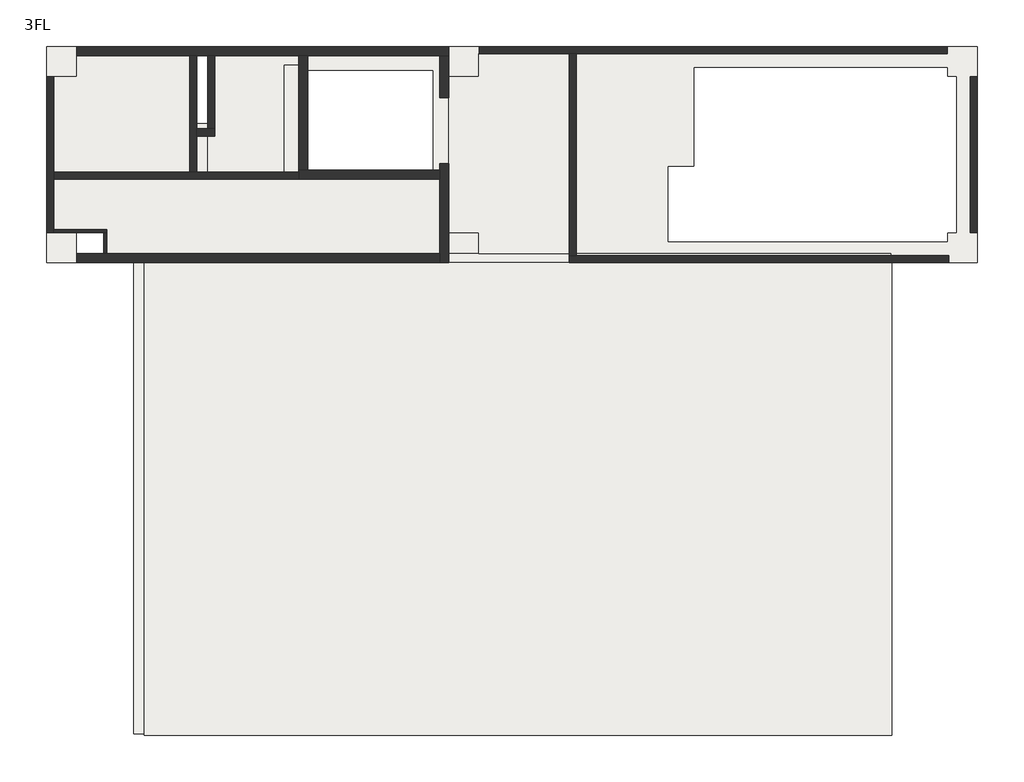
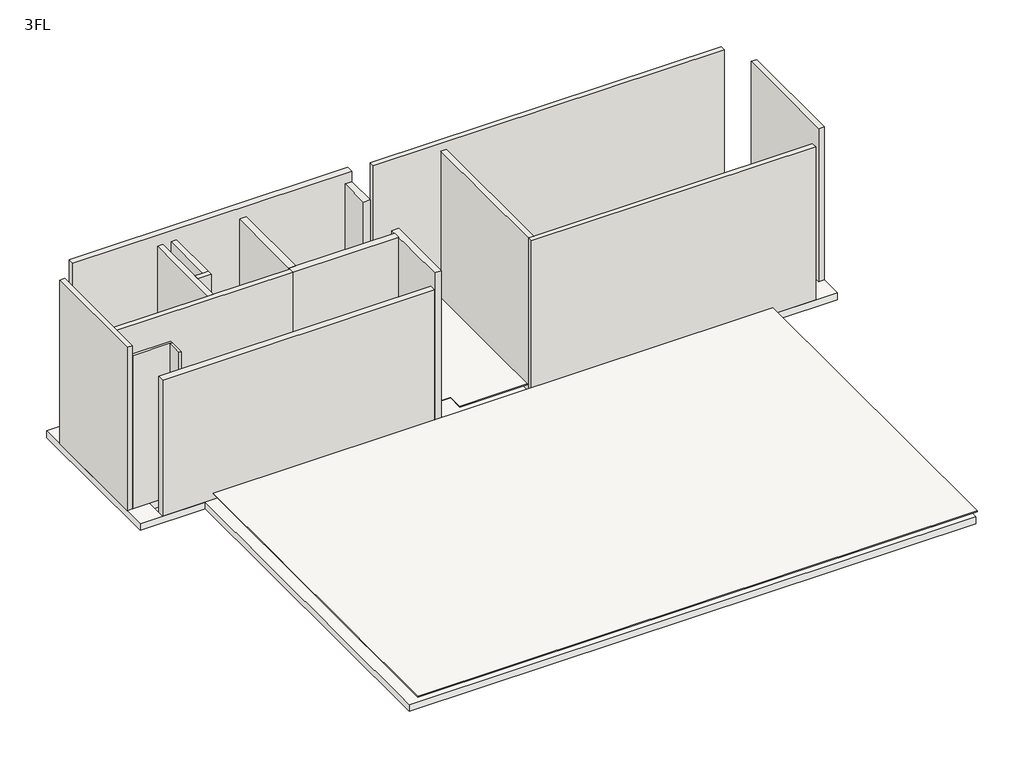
# One storey: 17 walls, 4 slabs.
"""IFC4 building model written with IfcOpenShell, lengths in millimetres."""

from ifc_helpers import new_model, si_unit, frame, origin, place, context, project, spatial, polyline, outline, extrude, faceted_brep, element, save

model = new_model("IFC4")

# Units and contexts
model_context = context("Model", 3, world=origin())
ifc_project = project(units=[si_unit("LENGTHUNIT", "METRE", prefix="MILLI")], contexts=[model_context])

# Site, building, storey
site = spatial("IfcSite", under=ifc_project)
building = spatial("IfcBuilding", under=site)
storey = spatial("IfcBuildingStorey", under=building, Name="3FL", Elevation=7450.0)

# Slabs
placement = place(None, origin())
element("IfcSlab", 1, ObjectType="鋼承版 - 16mm", at=placement, inside=storey, context=model_context, shape_type="SweptSolid", body=[
    extrude(outline(polyline([(-7565.3414697, 5384.8693073), (7934.8742545, 5384.8693073), (7934.8742545, 1784.8693073), (-7565.3414697, 1784.8693073), (-7565.3414697, 5384.8693073)]), holes=[polyline([(-4884.3162553, 5264.8693073), (-5064.3162553, 5264.8693073), (-5064.3162553, 4104.9876898), (-4884.3162553, 4104.9876898), (-4884.3162553, 5264.8693073)]), polyline([(-6612.356589, 2284.8693073), (-7065.3414697, 2284.8693073), (-7065.3414697, 1934.8693073), (-6612.356589, 1934.8693073), (-6612.356589, 2284.8693073)]), polyline([(7435.6837447, 4884.8693073), (7435.6837447, 5034.8693073), (3216.3930605, 5034.8693073), (3216.3930605, 3386.1193073), (2786.3930605, 3386.1193073), (2786.3930605, 2134.8693073), (7434.8742545, 2134.8693073), (7434.8742545, 2284.8693073), (7584.8742545, 2284.8693073), (7584.8742545, 4884.8693073), (7435.6837447, 4884.8693073)]), polyline([(-3215.3414697, 4984.8693073), (-3215.3414697, 3324.8693073), (-1134.3162553, 3324.8693073), (-1134.3162553, 4984.8693073), (-3215.3414697, 4984.8693073)])]), frame((0.0, 0.0, 7290.0), z_axis=(0.0, 0.0, 1.0), x_axis=(1.0, 0.0, 0.0)), (0.0, 0.0, 1.0), 160.0),
])
element("IfcSlab", 2, ObjectType="鋼承版 - 16mm", at=placement, inside=storey, context=model_context, shape_type="SweptSolid", body=[
    extrude(outline(polyline([(6489.8482097, 1934.8693073), (6489.8482097, -6065.1306927), (-6115.1257451, -6065.1306927), (-6115.1257451, 1934.8693073), (6489.8482097, 1934.8693073)])), frame((0.0, 0.0, 7290.0), z_axis=(0.0, 0.0, 1.0), x_axis=(1.0, 0.0, 0.0)), (0.0, 0.0, 1.0), 160.0),
])
element("IfcSlab", 3, ObjectType="架高樓板", at=placement, inside=storey, context=model_context, shape_type="SweptSolid", body=[
    extrude(outline(polyline([(6509.6585307, -6090.1306927), (-5940.3414693, -6090.1306927), (-5940.3414693, 1784.8693073), (6509.6585307, 1784.8693073), (6509.6585307, -6090.1306927)])), frame((0.0, 0.0, 7580.0), z_axis=(0.0, 0.0, 1.0), x_axis=(1.0, 0.0, 0.0)), (0.0, 0.0, 1.0), 20.0),
])
element("IfcSlab", 4, ObjectType="架高樓板", at=placement, inside=storey, context=model_context, shape_type="SweptSolid", body=[
    extrude(outline(polyline([(-7445.3414697, 2335.8071957), (-7445.3414697, 4884.8693073), (-7065.3414697, 4884.8693073), (-7065.3414697, 5264.8693073), (-5184.3162553, 5264.8693073), (-5184.3162553, 3294.869307), (-5464.3162553, 3294.869307), (-5464.3162553, 3174.869307), (-4564.5319795, 3174.869307), (-4564.5319795, 3294.869307), (-4884.3162553, 3294.869307), (-4884.3162553, 3894.869307), (-4764.3162553, 3894.869307), (-4764.3162553, 5264.8693073), (-3364.3162553, 5264.8693073), (-3364.3162553, 5084.8693073), (-3614.3162553, 5084.8693073), (-3614.3162553, 3294.869307), (-3714.5319795, 3294.869307), (-3714.5319795, 3174.8693068), (-1014.3162553, 3174.8693068), (-1014.3162553, 3324.8693073), (-865.3414693, 3324.8693073), (-865.3414693, 4884.8693073), (-365.3414693, 4884.8693073), (-365.3414693, 5264.8693073), (1135.6837447, 5264.8693073), (1135.6837447, 1934.8693073), (-365.1552631, 1934.8693073), (-365.1552631, 2285.1231494), (-865.3414693, 2285.1231494), (-865.3414693, 2161.8693073), (-1014.3162553, 2161.8693073), (-1014.3162553, 1934.8693073), (-6562.356589, 1934.8693073), (-6562.356589, 2335.8071957), (-7445.3414697, 2335.8071957)])), frame((0.0, 0.0, 7580.0), z_axis=(0.0, 0.0, 1.0), x_axis=(1.0, 0.0, 0.0)), (0.0, 0.0, 1.0), 20.0),
])

# Walls
element("IfcWall", 5, ObjectType="RC 牆 12cm", at=placement, inside=storey, context=model_context, shape_type="Brep", body=[
    faceted_brep([(-7445.3414697, 3174.869307, 7450.0), (-3364.5319795, 3174.869307, 7450.0), (-3364.5319795, 3174.869307, 11050.0), (-7445.3414697, 3174.869307, 11050.0), (-7445.3414697, 3294.869307, 7450.0), (-7445.3414697, 3294.869307, 11050.0), (-5184.3162553, 3294.869307, 11050.0), (-5064.3162553, 3294.869307, 11050.0), (-3364.5319795, 3294.869307, 11050.0), (-3364.5319795, 3294.869307, 7450.0), (-5064.3162553, 3294.869307, 7450.0), (-5184.3162553, 3294.869307, 7450.0)], [[[0, 1, 2, 3]], [[4, 5, 6, 7, 8, 9, 10, 11]], [[1, 0, 4, 11, 10, 9]], [[2, 1, 9, 8]], [[3, 2, 8, 7, 6, 5]], [[0, 3, 5, 4]]]),
])
element("IfcWall", 6, ObjectType="RC 牆 12cm", at=placement, inside=storey, context=model_context, shape_type="Brep", body=[
    faceted_brep([(-5184.3162553, 5234.8693073, 7450.0), (-5184.3162553, 3294.869307, 7450.0), (-5184.3162553, 3294.869307, 11050.0), (-5184.3162553, 5234.8693073, 11050.0), (-5064.3162553, 5234.8693073, 7450.0), (-5064.3162553, 5234.8693073, 11050.0), (-5064.3162553, 4014.869307, 11050.0), (-5064.3162553, 3894.869307, 11050.0), (-5064.3162553, 3294.869307, 11050.0), (-5064.3162553, 3294.869307, 7450.0), (-5064.3162553, 3894.869307, 7450.0), (-5064.3162553, 4014.869307, 7450.0)], [[[0, 1, 2, 3]], [[4, 5, 6, 7, 8, 9, 10, 11]], [[1, 0, 4, 11, 10, 9]], [[3, 2, 8, 7, 6, 5]], [[2, 1, 9, 8]], [[0, 3, 5, 4]]]),
])
element("IfcWall", 7, ObjectType="RC 牆 12cm", at=placement, inside=storey, context=model_context, shape_type="SweptSolid", body=[
    extrude(outline(polyline([(-4884.3162553, 4014.869307), (-4884.3162553, 5234.8693073), (-4764.3162553, 5234.8693073), (-4764.3162553, 4014.869307), (-4884.3162553, 4014.869307)])), frame((0.0, 0.0, 7450.0), z_axis=(0.0, 0.0, 1.0), x_axis=(1.0, 0.0, 0.0)), (0.0, 0.0, 1.0), 3600.0),
])
element("IfcWall", 8, ObjectType="RC 牆 12cm", at=placement, inside=storey, context=model_context, shape_type="Brep", body=[
    faceted_brep([(-4764.3162553, 4014.869307, 7450.0), (-4884.3162553, 4014.869307, 7450.0), (-5064.3162553, 4014.869307, 7450.0), (-5064.3162553, 4014.869307, 11050.0), (-4884.3162553, 4014.869307, 11050.0), (-4764.3162553, 4014.869307, 11050.0), (-4764.3162553, 3894.869307, 7450.0), (-4764.3162553, 3894.869307, 11050.0), (-5064.3162553, 3894.869307, 11050.0), (-5064.3162553, 3894.869307, 7450.0)], [[[0, 1, 2, 3, 4, 5]], [[6, 7, 8, 9]], [[2, 1, 0, 6, 9]], [[5, 4, 3, 8, 7]], [[3, 2, 9, 8]], [[0, 5, 7, 6]]]),
])
element("IfcWall", 9, ObjectType="RC 牆 15cm", at=placement, inside=storey, context=model_context, shape_type="Brep", body=[
    faceted_brep([(-7064.5319795, 5234.8693073, 7450.0), (-5184.3162553, 5234.8693073, 7450.0), (-5064.3162553, 5234.8693073, 7450.0), (-4884.3162553, 5234.8693073, 7450.0), (-4764.3162553, 5234.8693073, 7450.0), (-3364.3162553, 5234.8693073, 7450.0), (-3214.3162553, 5234.8693073, 7450.0), (-865.3414693, 5234.8693073, 7450.0), (-865.3414693, 5234.8693073, 11300.0), (-7064.5319795, 5234.8693073, 11300.0), (-7064.5319795, 5384.8693073, 7450.0), (-7064.5319795, 5384.8693073, 11300.0), (-865.3414693, 5384.8693073, 11300.0), (-865.3414693, 5384.8693073, 7450.0)], [[[0, 1, 2, 3, 4, 5, 6, 7, 8, 9]], [[10, 11, 12, 13]], [[7, 6, 5, 4, 3, 2, 1, 0, 10, 13]], [[9, 8, 12, 11]], [[0, 9, 11, 10]], [[8, 7, 13, 12]]]),
])
element("IfcWall", 10, ObjectType="RC 牆 15cm", at=placement, inside=storey, context=model_context, shape_type="SweptSolid", body=[
    extrude(outline(polyline([(-3364.3162553, 3324.8693073), (-3364.3162553, 5234.8693073), (-3214.3162553, 5234.8693073), (-3214.3162553, 3324.8693073), (-3364.3162553, 3324.8693073)])), frame((0.0, 0.0, 7450.0), z_axis=(0.0, 0.0, 1.0), x_axis=(1.0, 0.0, 0.0)), (0.0, 0.0, 1.0), 3600.0),
])
element("IfcWall", 11, ObjectType="RC 牆 15cm", at=placement, inside=storey, context=model_context, shape_type="Brep", body=[
    faceted_brep([(-3364.5319795, 3174.8693073, 7450.0), (-1014.3162553, 3174.8693073, 7450.0), (-1014.3162553, 3174.8693073, 11050.0), (-3364.5319795, 3174.8693073, 11050.0), (-3364.5319795, 3324.8693073, 7450.0), (-3364.5319795, 3324.8693073, 11050.0), (-3364.3162553, 3324.8693073, 11050.0), (-3214.3162553, 3324.8693073, 11050.0), (-1014.3162553, 3324.8693073, 11050.0), (-1014.3162553, 3324.8693073, 7450.0), (-3214.3162553, 3324.8693073, 7450.0), (-3364.3162553, 3324.8693073, 7450.0), (-3364.5319795, 3294.869307, 7450.0), (-3364.5319795, 3294.869307, 11050.0)], [[[0, 1, 2, 3]], [[4, 5, 6, 7, 8, 9, 10, 11]], [[1, 0, 12, 4, 11, 10, 9]], [[3, 2, 8, 7, 6, 5, 13]], [[0, 3, 13, 5, 4, 12]], [[2, 1, 9, 8]]]),
])
element("IfcWall", 12, ObjectType="RC 牆 15cm", at=placement, inside=storey, context=model_context, shape_type="SweptSolid", body=[
    extrude(outline(polyline([(-1014.3162553, 1784.8693073), (-1014.3162553, 3429.8693073), (-864.3162553, 3429.8693073), (-864.3162553, 1784.8693073), (-1014.3162553, 1784.8693073)])), frame((0.0, 0.0, 7450.0), z_axis=(0.0, 0.0, 1.0), x_axis=(1.0, 0.0, 0.0)), (0.0, 0.0, 1.0), 3600.0),
])
element("IfcWall", 13, ObjectType="RC 牆 12cm", at=placement, inside=storey, context=model_context, shape_type="Brep", body=[
    faceted_brep([(-7565.3414697, 4884.8693073, 7450.0), (-7565.3414697, 2284.8693073, 7450.0), (-7565.3414697, 2284.8693073, 11292.0), (-7565.3414697, 4884.8693073, 11292.0), (-7445.3414697, 4884.8693073, 7450.0), (-7445.3414697, 4884.8693073, 11292.0), (-7445.3414697, 2284.8693073, 11292.0), (-7445.3414697, 2284.8693073, 7450.0), (-7445.3414697, 3174.869307, 7450.0), (-7445.3414697, 3294.869307, 7450.0)], [[[0, 1, 2, 3]], [[4, 5, 6, 7, 8, 9]], [[1, 0, 4, 9, 8, 7]], [[2, 1, 7, 6]], [[3, 2, 6, 5]], [[0, 3, 5, 4]]]),
])
element("IfcWall", 14, ObjectType="RC 牆 12cm", at=placement, inside=storey, context=model_context, shape_type="SweptSolid", body=[
    extrude(outline(polyline([(1135.6837447, 1904.8693073), (1135.6837447, 5264.8693073), (1255.6837447, 5264.8693073), (1255.6837447, 1904.8693073), (1135.6837447, 1904.8693073)])), frame((0.0, 0.0, 7450.0), z_axis=(0.0, 0.0, 1.0), x_axis=(1.0, 0.0, 0.0)), (0.0, 0.0, 1.0), 3600.0),
])
element("IfcWall", 15, ObjectType="RC 牆 12cm", at=placement, inside=storey, context=model_context, shape_type="Brep", body=[
    faceted_brep([(-364.5319791, 5264.8693073, 7450.0), (1135.6837447, 5264.8693073, 7450.0), (1255.6837447, 5264.8693073, 7450.0), (7435.6837447, 5264.8693073, 7450.0), (7435.6837447, 5264.8693073, 11231.1011202), (-364.5319791, 5264.8693073, 11231.1011202), (-364.5319791, 5384.8693073, 7450.0), (-364.5319791, 5384.8693073, 11231.1011202), (7435.6837447, 5384.8693073, 11231.1011202), (7435.6837447, 5384.8693073, 7450.0)], [[[0, 1, 2, 3, 4, 5]], [[6, 7, 8, 9]], [[3, 2, 1, 0, 6, 9]], [[4, 3, 9, 8]], [[5, 4, 8, 7]], [[0, 5, 7, 6]]]),
])
element("IfcWall", 16, ObjectType="RC 牆 12cm", at=placement, inside=storey, context=model_context, shape_type="Brep", body=[
    faceted_brep([(1135.6837447, 1784.8693073, 7450.0), (7455.6837447, 1784.8693073, 7450.0), (7455.6837447, 1784.8693073, 11050.0), (1135.6837447, 1784.8693073, 11050.0), (1135.6837447, 1904.8693073, 7450.0), (1135.6837447, 1904.8693073, 11050.0), (1255.6837447, 1904.8693073, 11050.0), (7455.6837447, 1904.8693073, 11050.0), (7455.6837447, 1904.8693073, 7450.0), (1255.6837447, 1904.8693073, 7450.0)], [[[0, 1, 2, 3]], [[4, 5, 6, 7, 8, 9]], [[1, 0, 4, 9, 8]], [[2, 1, 8, 7]], [[3, 2, 7, 6, 5]], [[0, 3, 5, 4]]]),
])
element("IfcWall", 17, ObjectType="RC 牆 15cm", at=placement, inside=storey, context=model_context, shape_type="SweptSolid", body=[
    extrude(outline(polyline([(-1015.3414693, 4529.8693073), (-1015.3414693, 5234.8693073), (-865.3414693, 5234.8693073), (-865.3414693, 4529.8693073), (-1015.3414693, 4529.8693073)])), frame((0.0, 0.0, 7450.0), z_axis=(0.0, 0.0, 1.0), x_axis=(1.0, 0.0, 0.0)), (0.0, 0.0, 1.0), 3600.0),
])
element("IfcWall", 18, ObjectType="RC 牆 12cm", at=placement, inside=storey, context=model_context, shape_type="SweptSolid", body=[
    extrude(outline(polyline([(7814.8742545, 2284.8693073), (7814.8742545, 4884.8693073), (7934.8742545, 4884.8693073), (7934.8742545, 2284.8693073), (7814.8742545, 2284.8693073)])), frame((0.0, 0.0, 7450.0), z_axis=(0.0, 0.0, 1.0), x_axis=(1.0, 0.0, 0.0)), (0.0, 0.0, 1.0), 3600.0),
])
element("IfcWall", 19, ObjectType="RC 牆 15cm", at=placement, inside=storey, context=model_context, shape_type="Brep", body=[
    faceted_brep([(-1014.3162553, 1934.8693073, 7450.0), (-6562.356589, 1934.8693073, 7450.0), (-6612.356589, 1934.8693073, 7450.0), (-7064.3162553, 1934.8693073, 7450.0), (-7064.3162553, 1934.8693073, 10650.0), (-1014.3162553, 1934.8693073, 10650.0), (-1014.3162553, 1784.8693073, 7450.0), (-1014.3162553, 1784.8693073, 10650.0), (-7064.3162553, 1784.8693073, 10650.0), (-7064.3162553, 1784.8693073, 7450.0)], [[[0, 1, 2, 3, 4, 5]], [[6, 7, 8, 9]], [[3, 2, 1, 0, 6, 9]], [[4, 3, 9, 8]], [[5, 4, 8, 7]], [[0, 5, 7, 6]]]),
])
element("IfcWall", 20, ObjectType="RC 牆 5cm", at=placement, inside=storey, context=model_context, shape_type="Brep", body=[
    faceted_brep([(-7442.356589, 2285.8071957, 7450.0), (-6612.356589, 2285.8071957, 7450.0), (-6562.356589, 2285.8071957, 7450.0), (-6562.356589, 2285.8071957, 11050.0), (-6612.356589, 2285.8071957, 11050.0), (-7442.356589, 2285.8071957, 11050.0), (-7442.356589, 2335.8071957, 7450.0), (-7442.356589, 2335.8071957, 11050.0), (-6562.356589, 2335.8071957, 11050.0), (-6562.356589, 2335.8071957, 7450.0)], [[[0, 1, 2, 3, 4, 5]], [[6, 7, 8, 9]], [[2, 1, 0, 6, 9]], [[5, 4, 3, 8, 7]], [[0, 5, 7, 6]], [[3, 2, 9, 8]]]),
])
element("IfcWall", 21, ObjectType="RC 牆 5cm", at=placement, inside=storey, context=model_context, shape_type="SweptSolid", body=[
    extrude(outline(polyline([(-6612.356589, 1934.8693073), (-6612.356589, 2285.8071957), (-6562.356589, 2285.8071957), (-6562.356589, 1934.8693073), (-6612.356589, 1934.8693073)])), frame((0.0, 0.0, 7450.0), z_axis=(0.0, 0.0, 1.0), x_axis=(1.0, 0.0, 0.0)), (0.0, 0.0, 1.0), 3600.0),
])

save(model, "model.ifc")
